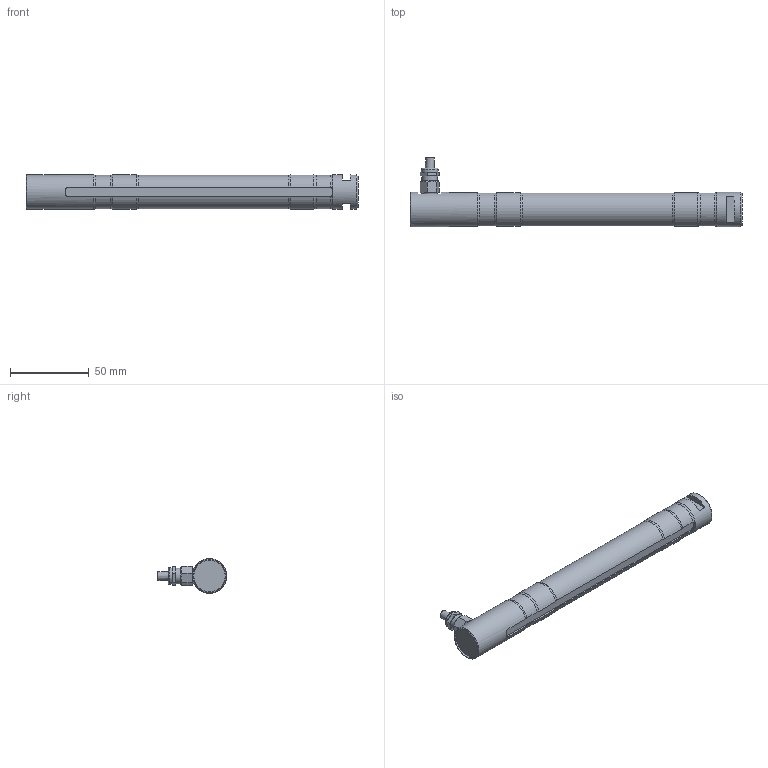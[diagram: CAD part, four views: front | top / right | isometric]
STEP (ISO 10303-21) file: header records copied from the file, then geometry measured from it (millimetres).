
FILE_DESCRIPTION(/* description */ ('Alibre Inc.'),/* implementation_level */ '2;1');
FILE_NAME(/* name */ 'export-87BA5934-C524-4AD3-A534-0C6B94C99F62',/* time_stamp */ '2019-03-25T11:36:32+01:00',/* author */ (''),/* organization */ (''),/* preprocessor_version */ 'ST-DEVELOPER v17',/* originating_system */ 'Alibre',/* authorisation */ '');
FILE_SCHEMA (('CONFIG_CONTROL_DESIGN'));
Length unit declared in the file: centimetre
Products named in the file (6): ID_1
Bounding box: 211 x 44.24 x 22 mm (x, y, z)
Volume: 75264.3 mm3; surface area: 17684.5 mm2
Topology: 4 solids, 4 shells, 90 faces, 217 edges, 141 vertices
Faces by surface type: plane 43, cylinder 26, torus 15, cone 5, bspline 1
Full cylindrical faces by diameter (mm): 5.5 x1, 6.917 x1, 8 x1, 10 x1, 10.8 x1, 20 x1, 22 x2
Entity records: 3744 total; most frequent: CARTESIAN_POINT 1317, ORIENTED_EDGE 388, DIRECTION 312, EDGE_CURVE 194, AXIS2_PLACEMENT_3D 137, VERTEX_POINT 136, FACE_BOUND 116, EDGE_LOOP 115
